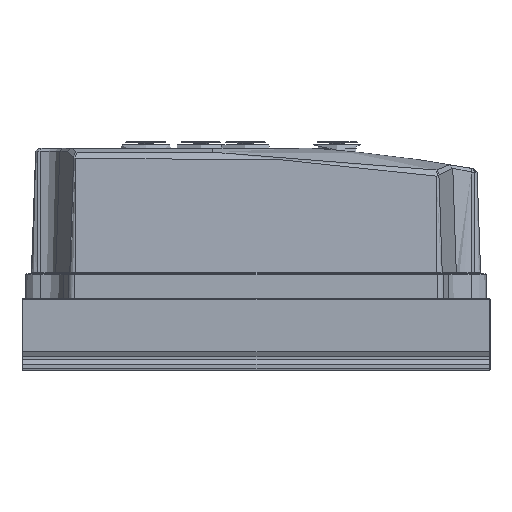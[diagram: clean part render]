
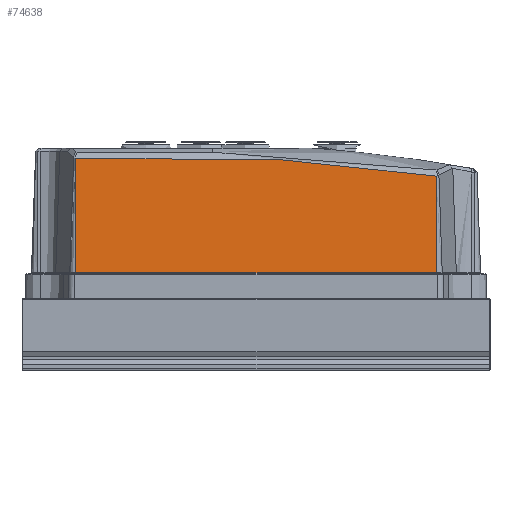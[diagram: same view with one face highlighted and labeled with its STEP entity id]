
A CAD part, left-side view. The second image highlights one B-rep face of the part: STEP entity #74638.
In plain terms, the highlighted planar face has unit normal (-0.999, 0, 0.035).
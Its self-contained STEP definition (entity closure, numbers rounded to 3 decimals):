
#2196=B_SPLINE_CURVE_WITH_KNOTS('',3,(#145917,#145918,#145919,#145920,#145921,
#145922,#145923,#145924),.UNSPECIFIED.,.F.,.F.,(4,2,2,4),(-21.18,
-8.189,-2.897,0.),.UNSPECIFIED.);
#4068=PLANE('',#81458);
#8369=FACE_OUTER_BOUND('',#13035,.T.);
#13035=EDGE_LOOP('',(#59164,#59165,#59166,#59167));
#17730=LINE('',#145911,#23076);
#17731=LINE('',#145914,#23077);
#17732=LINE('',#145916,#23078);
#23076=VECTOR('',#94763,1000.);
#23077=VECTOR('',#94766,1000.);
#23078=VECTOR('',#94767,1000.);
#34579=VERTEX_POINT('',#145885);
#34581=VERTEX_POINT('',#145909);
#34582=VERTEX_POINT('',#145913);
#34583=VERTEX_POINT('',#145915);
#43499=EDGE_CURVE('',#34579,#34581,#17730,.T.);
#43500=EDGE_CURVE('',#34581,#34582,#17731,.T.);
#43501=EDGE_CURVE('',#34583,#34582,#17732,.T.);
#43502=EDGE_CURVE('',#34583,#34579,#2196,.T.);
#59164=ORIENTED_EDGE('',*,*,#43499,.T.);
#59165=ORIENTED_EDGE('',*,*,#43500,.T.);
#59166=ORIENTED_EDGE('',*,*,#43501,.F.);
#59167=ORIENTED_EDGE('',*,*,#43502,.T.);
#74638=ADVANCED_FACE('',(#8369),#4068,.T.);
#81458=AXIS2_PLACEMENT_3D('',#145912,#94764,#94765);
#94763=DIRECTION('',(-0.035,0.,-0.999));
#94764=DIRECTION('center_axis',(-0.999,0.,
0.035));
#94765=DIRECTION('ref_axis',(0.035,0.,0.999));
#94766=DIRECTION('',(0.,-1.,0.));
#94767=DIRECTION('',(-0.035,0.,-0.999));
#145885=CARTESIAN_POINT('',(14.966,149.302,223.443));
#145909=CARTESIAN_POINT('',(13.683,149.302,186.7));
#145911=CARTESIAN_POINT('',(13.672,149.302,186.41));
#145912=CARTESIAN_POINT('Origin',(13.672,149.302,186.41));
#145913=CARTESIAN_POINT('',(13.683,33.76,186.7));
#145914=CARTESIAN_POINT('',(13.683,149.302,186.7));
#145915=CARTESIAN_POINT('',(14.765,33.76,217.693));
#145916=CARTESIAN_POINT('',(13.672,33.76,186.41));
#145917=CARTESIAN_POINT('Ctrl Pts',(14.765,33.76,217.693));
#145918=CARTESIAN_POINT('Ctrl Pts',(14.873,52.824,220.777));
#145919=CARTESIAN_POINT('Ctrl Pts',(14.937,72.07,222.625));
#145920=CARTESIAN_POINT('Ctrl Pts',(14.967,99.239,223.471));
#145921=CARTESIAN_POINT('Ctrl Pts',(14.966,102.694,223.443));
#145922=CARTESIAN_POINT('Ctrl Pts',(14.966,129.991,223.443));
#145923=CARTESIAN_POINT('Ctrl Pts',(14.966,139.647,223.443));
#145924=CARTESIAN_POINT('Ctrl Pts',(14.966,149.302,223.443));
